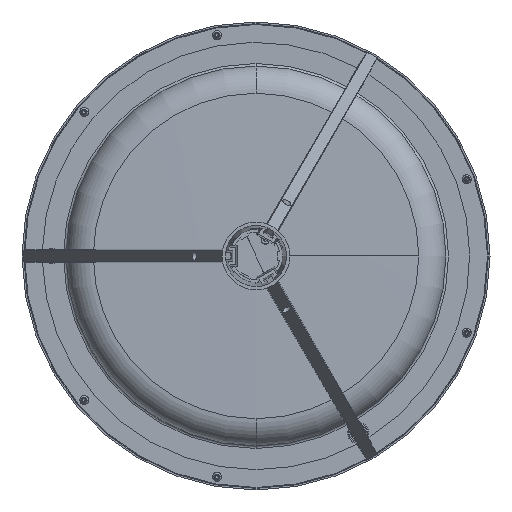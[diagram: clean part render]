
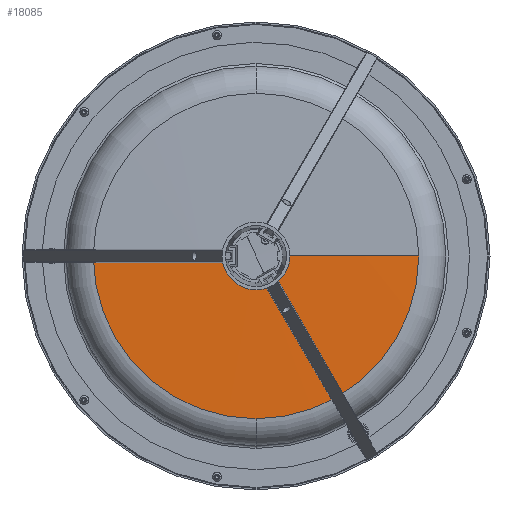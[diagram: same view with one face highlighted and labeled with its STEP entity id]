
A CAD part, front view. The second image highlights one B-rep face of the part: STEP entity #18085.
In plain terms, the highlighted spherical face has radius 10003 mm.
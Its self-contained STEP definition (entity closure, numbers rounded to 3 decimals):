
#263 = CARTESIAN_POINT ( 'NONE',  ( 0., -36.341, 0. ) ) ;
#423 = CARTESIAN_POINT ( 'NONE',  ( 191.915, -34.499, 0. ) ) ;
#978 = DIRECTION ( 'NONE',  ( 0., 0., -1. ) ) ;
#1573 = CIRCLE ( 'NONE', #23089, 191.915 ) ;
#1601 = DIRECTION ( 'NONE',  ( 0., 0., 1. ) ) ;
#1666 = EDGE_CURVE ( 'NONE', #17445, #20286, #22257, .T. ) ;
#2826 = VERTEX_POINT ( 'NONE', #10538 ) ;
#3310 = CARTESIAN_POINT ( 'NONE',  ( 0., 9966.659, 0. ) ) ;
#4080 = ORIENTED_EDGE ( 'NONE', *, *, #28883, .T. ) ;
#7852 = FACE_OUTER_BOUND ( 'NONE', #28733, .T. ) ;
#8428 = CARTESIAN_POINT ( 'NONE',  ( 0., -34.499, 0. ) ) ;
#8676 = AXIS2_PLACEMENT_3D ( 'NONE', #15348, #26422, #28488 ) ;
#8768 = CIRCLE ( 'NONE', #19467, 10003. ) ;
#8997 = DIRECTION ( 'NONE',  ( 0., -1., 0. ) ) ;
#10196 = SPHERICAL_SURFACE ( 'NONE', #18560, 10003. ) ;
#10538 = CARTESIAN_POINT ( 'NONE',  ( 0., -34.499, -191.915 ) ) ;
#10697 = CARTESIAN_POINT ( 'NONE',  ( 0., 9966.659, 0. ) ) ;
#11086 = CARTESIAN_POINT ( 'NONE',  ( 0., 9966.659, 0. ) ) ;
#12224 = DIRECTION ( 'NONE',  ( -1., 0., 0. ) ) ;
#12871 = CIRCLE ( 'NONE', #8676, 191.915 ) ;
#12901 = AXIS2_PLACEMENT_3D ( 'NONE', #10697, #1601, #17117 ) ;
#14996 = ORIENTED_EDGE ( 'NONE', *, *, #1666, .F. ) ;
#15348 = CARTESIAN_POINT ( 'NONE',  ( 0., -34.499, 0. ) ) ;
#17117 = DIRECTION ( 'NONE',  ( 1., 0., 0. ) ) ;
#17366 = DIRECTION ( 'NONE',  ( 0., 0., -1. ) ) ;
#17445 = VERTEX_POINT ( 'NONE', #20173 ) ;
#17762 = DIRECTION ( 'NONE',  ( 0., 0., -1. ) ) ;
#17765 = EDGE_CURVE ( 'NONE', #20029, #20286, #8768, .T. ) ;
#18085 = ADVANCED_FACE ( 'NONE', ( #7852 ), #10196, .T. ) ;
#18560 = AXIS2_PLACEMENT_3D ( 'NONE', #3310, #978, #12224 ) ;
#19218 = EDGE_CURVE ( 'NONE', #17445, #2826, #1573, .T. ) ;
#19264 = ORIENTED_EDGE ( 'NONE', *, *, #17765, .T. ) ;
#19467 = AXIS2_PLACEMENT_3D ( 'NONE', #11086, #17366, #24525 ) ;
#20029 = VERTEX_POINT ( 'NONE', #423 ) ;
#20173 = CARTESIAN_POINT ( 'NONE',  ( -191.915, -34.499, 0. ) ) ;
#20286 = VERTEX_POINT ( 'NONE', #263 ) ;
#20781 = ORIENTED_EDGE ( 'NONE', *, *, #19218, .T. ) ;
#22257 = CIRCLE ( 'NONE', #12901, 10003. ) ;
#23089 = AXIS2_PLACEMENT_3D ( 'NONE', #8428, #8997, #17762 ) ;
#24525 = DIRECTION ( 'NONE',  ( -1., 0., 0. ) ) ;
#26422 = DIRECTION ( 'NONE',  ( 0., -1., 0. ) ) ;
#28488 = DIRECTION ( 'NONE',  ( 0., 0., -1. ) ) ;
#28733 = EDGE_LOOP ( 'NONE', ( #20781, #4080, #19264, #14996 ) ) ;
#28883 = EDGE_CURVE ( 'NONE', #2826, #20029, #12871, .T. ) ;
